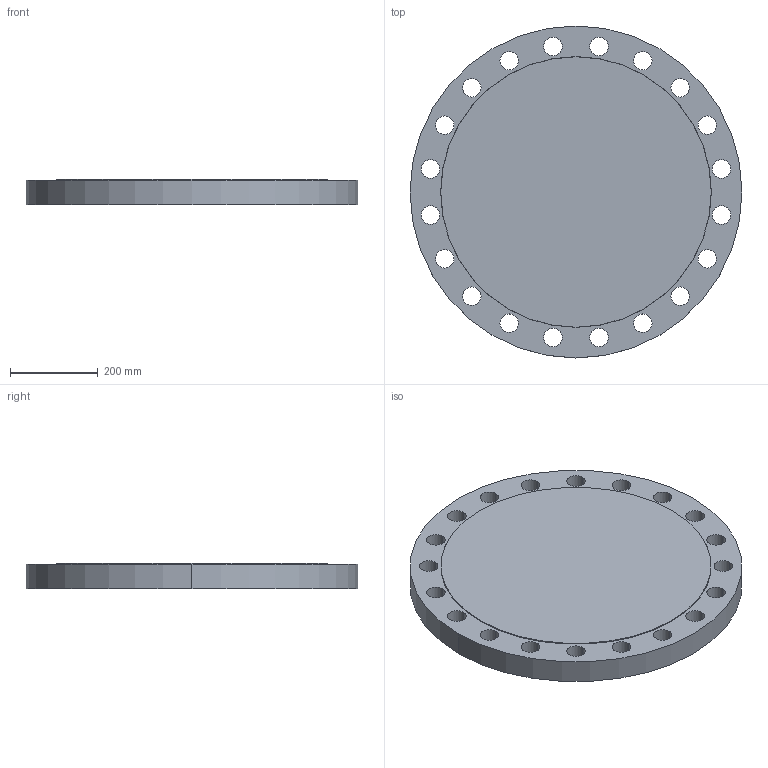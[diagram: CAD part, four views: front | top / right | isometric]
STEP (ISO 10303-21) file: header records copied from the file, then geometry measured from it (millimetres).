
FILE_DESCRIPTION (( 'STEP AP214' ), '1' );
FILE_NAME ('PN40 DN500 Type 05 - Type B Face.STEP', '2018-12-29T01:32:01', ( '' ), ( '' ), 'SwSTEP 2.0', 'SolidWorks 2019', '' );
FILE_SCHEMA (( 'AUTOMOTIVE_DESIGN' ));
Length unit declared in the file: millimetre
Products named in the file (1): PN40 DN500 Type 05 - Type B Face
Bounding box: 755 x 755 x 57 mm (x, y, z)
Volume: 23694121.8 mm3; surface area: 1118816 mm2
Topology: 1 solids, 1 shells, 47 faces, 132 edges, 88 vertices
Faces by surface type: cylinder 42, plane 3, cone 2
Entity records: 1688 total; most frequent: DIRECTION 316, CARTESIAN_POINT 268, ORIENTED_EDGE 264, AXIS2_PLACEMENT_3D 136, EDGE_CURVE 132, CIRCLE 88, VERTEX_POINT 88, EDGE_LOOP 88
